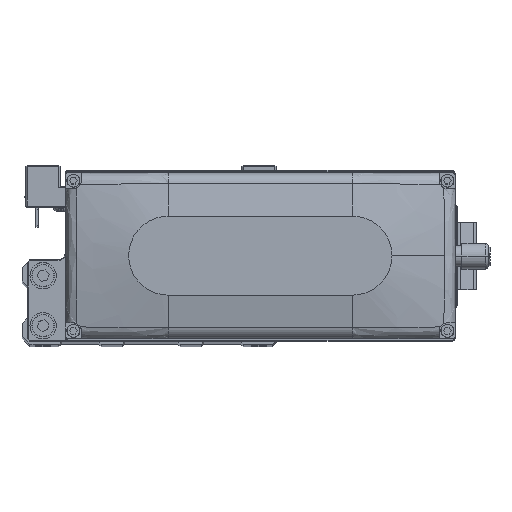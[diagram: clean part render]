
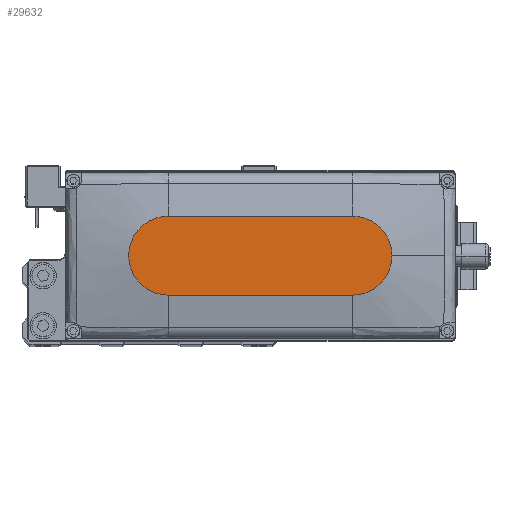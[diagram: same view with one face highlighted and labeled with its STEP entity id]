
A CAD part, top view. The second image highlights one B-rep face of the part: STEP entity #29632.
In plain terms, the highlighted planar face has unit normal (0, 0, 1).
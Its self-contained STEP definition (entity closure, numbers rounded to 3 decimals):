
#226 = VERTEX_POINT ( 'NONE', #26335 ) ;
#1545 = EDGE_CURVE ( 'NONE', #2521, #39370, #20332, .T. ) ;
#1935 = CIRCLE ( 'NONE', #25052, 15. ) ;
#2288 = ORIENTED_EDGE ( 'NONE', *, *, #1545, .T. ) ;
#2521 = VERTEX_POINT ( 'NONE', #6282 ) ;
#3310 = CARTESIAN_POINT ( 'NONE',  ( -35., 0., 35. ) ) ;
#4433 = DIRECTION ( 'NONE',  ( 1., 0., 0. ) ) ;
#4595 = DIRECTION ( 'NONE',  ( 1., 0., 0. ) ) ;
#4989 = CARTESIAN_POINT ( 'NONE',  ( 0., 0., 35. ) ) ;
#6282 = CARTESIAN_POINT ( 'NONE',  ( -35., -15., 35. ) ) ;
#7181 = VECTOR ( 'NONE', #38873, 1000. ) ;
#8826 = EDGE_LOOP ( 'NONE', ( #34901, #10340, #2288, #24114, #30421 ) ) ;
#9033 = AXIS2_PLACEMENT_3D ( 'NONE', #20155, #32753, #4433 ) ;
#9810 = CARTESIAN_POINT ( 'NONE',  ( 35., 0., 35. ) ) ;
#10340 = ORIENTED_EDGE ( 'NONE', *, *, #23391, .T. ) ;
#13252 = CARTESIAN_POINT ( 'NONE',  ( 50., 0., 35. ) ) ;
#13630 = EDGE_CURVE ( 'NONE', #19863, #31539, #26867, .T. ) ;
#13651 = LINE ( 'NONE', #26265, #7181 ) ;
#13900 = VECTOR ( 'NONE', #4595, 1000. ) ;
#15932 = DIRECTION ( 'NONE',  ( 0., 0., 1. ) ) ;
#17622 = DIRECTION ( 'NONE',  ( 0., 0., 1. ) ) ;
#19863 = VERTEX_POINT ( 'NONE', #13252 ) ;
#20155 = CARTESIAN_POINT ( 'NONE',  ( 35., 0., 35. ) ) ;
#20332 = LINE ( 'NONE', #32914, #13900 ) ;
#20719 = FACE_OUTER_BOUND ( 'NONE', #8826, .T. ) ;
#22434 = DIRECTION ( 'NONE',  ( 0., 0., 1. ) ) ;
#23025 = AXIS2_PLACEMENT_3D ( 'NONE', #4989, #17622, #30231 ) ;
#23391 = EDGE_CURVE ( 'NONE', #226, #2521, #34400, .T. ) ;
#24114 = ORIENTED_EDGE ( 'NONE', *, *, #26814, .T. ) ;
#25052 = AXIS2_PLACEMENT_3D ( 'NONE', #9810, #22434, #35021 ) ;
#26265 = CARTESIAN_POINT ( 'NONE',  ( -35., 15., 35. ) ) ;
#26335 = CARTESIAN_POINT ( 'NONE',  ( -35., 15., 35. ) ) ;
#26814 = EDGE_CURVE ( 'NONE', #39370, #19863, #1935, .T. ) ;
#26867 = CIRCLE ( 'NONE', #9033, 15. ) ;
#28563 = DIRECTION ( 'NONE',  ( 1., 0., 0. ) ) ;
#29632 = ADVANCED_FACE ( 'NONE', ( #20719 ), #33299, .T. ) ;
#29987 = EDGE_CURVE ( 'NONE', #31539, #226, #13651, .T. ) ;
#30231 = DIRECTION ( 'NONE',  ( 1., 0., 0. ) ) ;
#30421 = ORIENTED_EDGE ( 'NONE', *, *, #13630, .T. ) ;
#31539 = VERTEX_POINT ( 'NONE', #35106 ) ;
#32753 = DIRECTION ( 'NONE',  ( 0., 0., 1. ) ) ;
#32914 = CARTESIAN_POINT ( 'NONE',  ( -35., -15., 35. ) ) ;
#33299 = PLANE ( 'NONE',  #23025 ) ;
#34400 = CIRCLE ( 'NONE', #39697, 15. ) ;
#34901 = ORIENTED_EDGE ( 'NONE', *, *, #29987, .T. ) ;
#35021 = DIRECTION ( 'NONE',  ( 1., 0., 0. ) ) ;
#35106 = CARTESIAN_POINT ( 'NONE',  ( 35., 15., 35. ) ) ;
#37466 = CARTESIAN_POINT ( 'NONE',  ( 35., -15., 35. ) ) ;
#38873 = DIRECTION ( 'NONE',  ( -1., 0., 0. ) ) ;
#39370 = VERTEX_POINT ( 'NONE', #37466 ) ;
#39697 = AXIS2_PLACEMENT_3D ( 'NONE', #3310, #15932, #28563 ) ;
